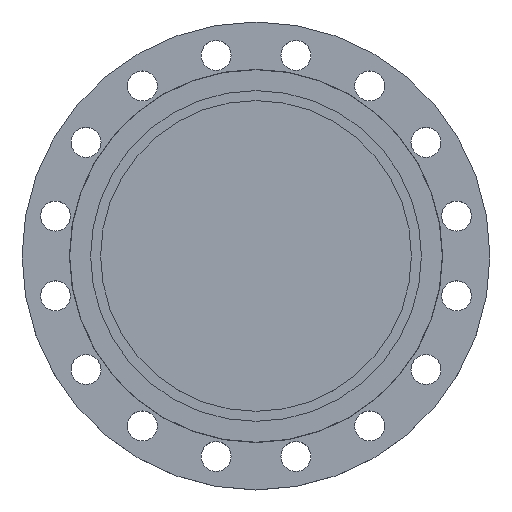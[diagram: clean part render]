
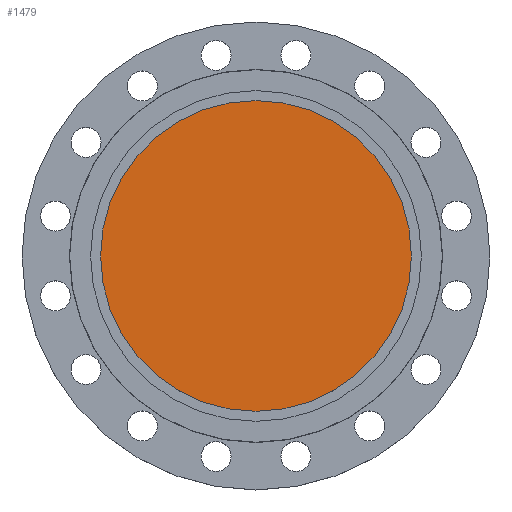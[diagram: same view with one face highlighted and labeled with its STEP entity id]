
A CAD part, top view. The second image highlights one B-rep face of the part: STEP entity #1479.
In plain terms, the highlighted planar face has unit normal (0, 0, 1).
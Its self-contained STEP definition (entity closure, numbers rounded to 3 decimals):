
#48 = DIRECTION ( 'NONE',  ( -1., 0., 0. ) ) ;
#51 = DIRECTION ( 'NONE',  ( 0., 0., -1. ) ) ;
#165 = CIRCLE ( 'NONE', #1703, 171. ) ;
#223 = CARTESIAN_POINT ( 'NONE',  ( 0., 0., 0. ) ) ;
#242 = VERTEX_POINT ( 'NONE', #776 ) ;
#271 = ORIENTED_EDGE ( 'NONE', *, *, #1064, .F. ) ;
#388 = EDGE_CURVE ( 'NONE', #242, #1207, #165, .T. ) ;
#524 = EDGE_LOOP ( 'NONE', ( #596, #271 ) ) ;
#529 = DIRECTION ( 'NONE',  ( 1., 0., 0. ) ) ;
#531 = DIRECTION ( 'NONE',  ( 0., 0., 1. ) ) ;
#532 = CARTESIAN_POINT ( 'NONE',  ( 0., 0., 0. ) ) ;
#535 = PLANE ( 'NONE',  #999 ) ;
#540 = FACE_OUTER_BOUND ( 'NONE', #524, .T. ) ;
#596 = ORIENTED_EDGE ( 'NONE', *, *, #388, .F. ) ;
#776 = CARTESIAN_POINT ( 'NONE',  ( -171., 0., 0. ) ) ;
#999 = AXIS2_PLACEMENT_3D ( 'NONE', #532, #531, #529 ) ;
#1034 = CIRCLE ( 'NONE', #1036, 171. ) ;
#1036 = AXIS2_PLACEMENT_3D ( 'NONE', #1380, #1378, #1374 ) ;
#1064 = EDGE_CURVE ( 'NONE', #1207, #242, #1034, .T. ) ;
#1094 = CARTESIAN_POINT ( 'NONE',  ( 171., 0., 0. ) ) ;
#1207 = VERTEX_POINT ( 'NONE', #1094 ) ;
#1374 = DIRECTION ( 'NONE',  ( -1., 0., 0. ) ) ;
#1378 = DIRECTION ( 'NONE',  ( 0., 0., -1. ) ) ;
#1380 = CARTESIAN_POINT ( 'NONE',  ( 0., 0., 0. ) ) ;
#1479 = ADVANCED_FACE ( 'NONE', ( #540 ), #535, .T. ) ;
#1703 = AXIS2_PLACEMENT_3D ( 'NONE', #223, #51, #48 ) ;
